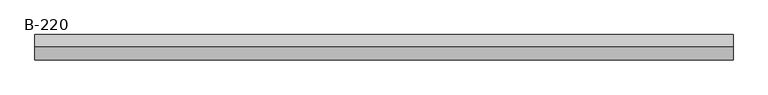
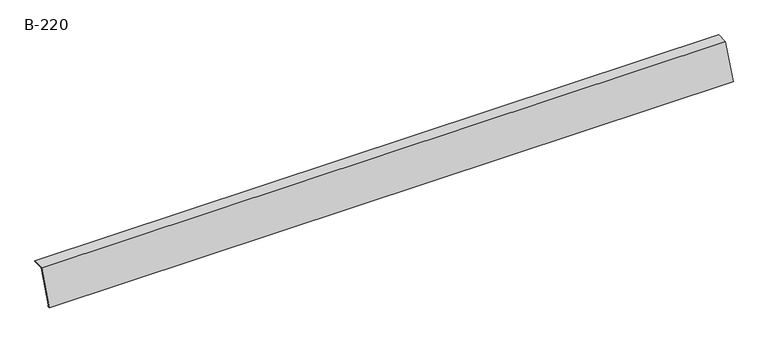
"""IFC4 building model written with IfcOpenShell, lengths in millimetres: proxy geometry, GROVIK_Flashing_Eaves_Custom : B-220."""

from ifc_helpers import new_model, si_unit, frame, origin, place, context, project, spatial, polyline, outline, extrude, source, transform, mapped, element, save


def b_220_5980a5c1(model_context):
    return source(origin(), model_context, "Body", "SweptSolid", [
        extrude(outline(polyline([(-0.6918582, 0.9880759), (-57.9129574, -148.077984), (-48.2100002, -145.6587651), (-47.9680783, -146.6290608), (-59.5349563, -149.5130074), (-1.3837164, 1.9761518), (48.9576322, 2.8548633), (48.9750847, 1.8550156), (-0.6918582, 0.9880759)])), frame((0.0, 0.0, 0.0), z_axis=(1.0, 0.0, 0.0), x_axis=(0.0, 1.0, 0.0)), (0.0, 0.0, 1.0), 3000.0),
    ])


if __name__ == "__main__":
    model = new_model("IFC4")
    model_context = context("Model", 3, world=origin())
    ifc_project = project(units=[si_unit("LENGTHUNIT", "METRE", prefix="MILLI")], contexts=[model_context])
    site = spatial("IfcSite", under=ifc_project)
    building = spatial("IfcBuilding", under=site)
    placement = place(None, origin())
    b_220_shape = b_220_5980a5c1(model_context)
    element("IfcBuildingElementProxy", 1, Name="GROVIK_Flashing_Eaves_Custom : B-220", ObjectType="GROVIK_Flashing_Eaves_Custom : B-220", at=placement, inside=building, context=model_context, shape_type="MappedRepresentation", body=[
        mapped(b_220_shape, transform((0.0, 0.0, 0.0), x_axis=(1.0, 0.0, 0.0), y_axis=(0.0, 1.0, 0.0), z_axis=(0.0, 0.0, 1.0))),
    ])
    save(model, "model.ifc")
